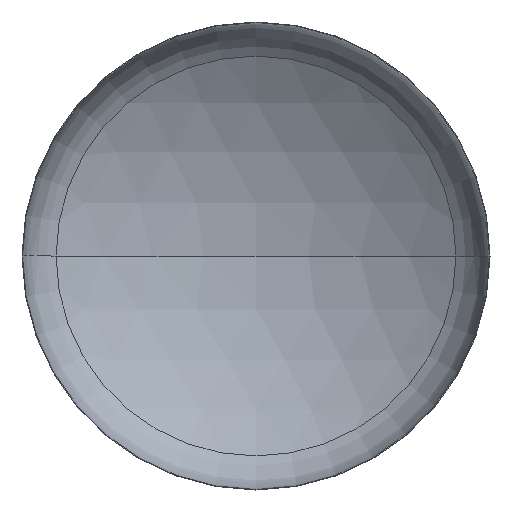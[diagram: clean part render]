
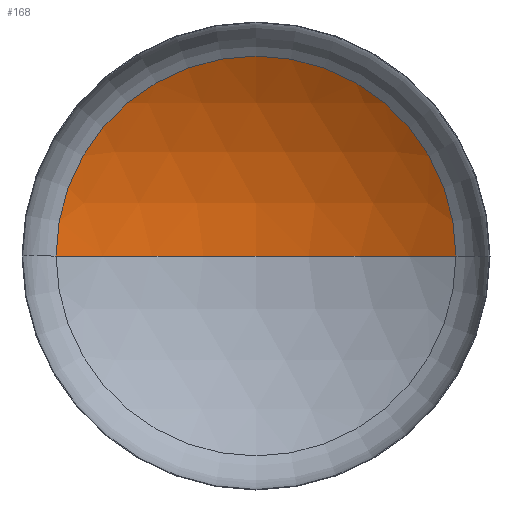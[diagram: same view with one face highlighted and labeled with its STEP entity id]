
A CAD part, front view. The second image highlights one B-rep face of the part: STEP entity #168.
In plain terms, the highlighted spherical face has radius 2080 mm.
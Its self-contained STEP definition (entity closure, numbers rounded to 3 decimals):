
#13 = AXIS2_PLACEMENT_3D ( 'NONE', #217, #255, #279 ) ;
#21 = AXIS2_PLACEMENT_3D ( 'NONE', #314, #271, #232 ) ;
#22 = DIRECTION ( 'NONE',  ( -1., 0., 0. ) ) ;
#23 = AXIS2_PLACEMENT_3D ( 'NONE', #152, #52, #22 ) ;
#25 = AXIS2_PLACEMENT_3D ( 'NONE', #200, #294, #136 ) ;
#29 = EDGE_LOOP ( 'NONE', ( #49, #180, #151 ) ) ;
#49 = ORIENTED_EDGE ( 'NONE', *, *, #80, .F. ) ;
#52 = DIRECTION ( 'NONE',  ( 0., 0., -1. ) ) ;
#74 = EDGE_CURVE ( 'NONE', #85, #154, #221, .T. ) ;
#77 = EDGE_CURVE ( 'NONE', #117, #85, #128, .T. ) ;
#80 = EDGE_CURVE ( 'NONE', #117, #154, #390, .T. ) ;
#85 = VERTEX_POINT ( 'NONE', #301 ) ;
#117 = VERTEX_POINT ( 'NONE', #206 ) ;
#128 = CIRCLE ( 'NONE', #23, 2080. ) ;
#136 = DIRECTION ( 'NONE',  ( 1., 0., 0. ) ) ;
#151 = ORIENTED_EDGE ( 'NONE', *, *, #74, .T. ) ;
#152 = CARTESIAN_POINT ( 'NONE',  ( 0., -1400.49, 0. ) ) ;
#154 = VERTEX_POINT ( 'NONE', #318 ) ;
#168 = ADVANCED_FACE ( 'NONE', ( #216 ), #331, .F. ) ;
#180 = ORIENTED_EDGE ( 'NONE', *, *, #77, .T. ) ;
#200 = CARTESIAN_POINT ( 'NONE',  ( 0., 358.212, 0. ) ) ;
#206 = CARTESIAN_POINT ( 'NONE',  ( 0., 679.51, 0. ) ) ;
#216 = FACE_OUTER_BOUND ( 'NONE', #29, .T. ) ;
#217 = CARTESIAN_POINT ( 'NONE',  ( 0., -1400.49, 0. ) ) ;
#221 = CIRCLE ( 'NONE', #25, 1110.571 ) ;
#232 = DIRECTION ( 'NONE',  ( 1., 0., 0. ) ) ;
#255 = DIRECTION ( 'NONE',  ( 0., 0., -1. ) ) ;
#271 = DIRECTION ( 'NONE',  ( 0., 0., 1. ) ) ;
#279 = DIRECTION ( 'NONE',  ( -1., 0., 0. ) ) ;
#294 = DIRECTION ( 'NONE',  ( 0., -1., 0. ) ) ;
#301 = CARTESIAN_POINT ( 'NONE',  ( 1110.571, 358.212, 0. ) ) ;
#314 = CARTESIAN_POINT ( 'NONE',  ( 0., -1400.49, 0. ) ) ;
#318 = CARTESIAN_POINT ( 'NONE',  ( -1110.571, 358.212, 0. ) ) ;
#331 = SPHERICAL_SURFACE ( 'NONE', #13, 2080. ) ;
#390 = CIRCLE ( 'NONE', #21, 2080. ) ;
